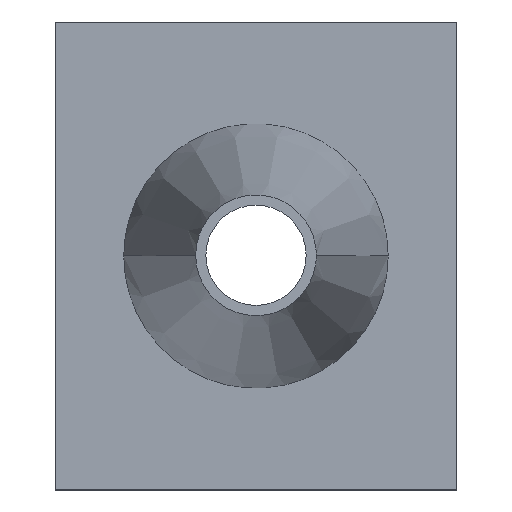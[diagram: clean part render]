
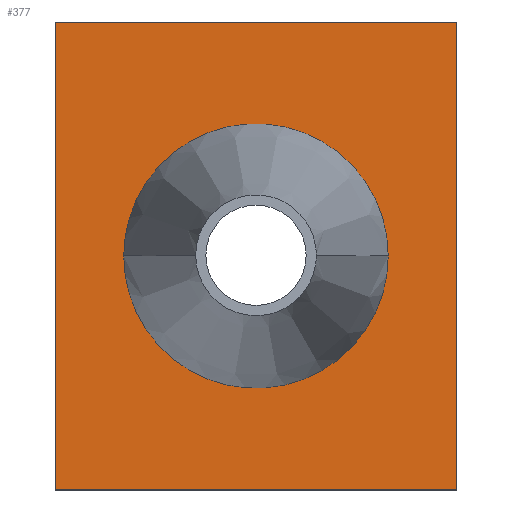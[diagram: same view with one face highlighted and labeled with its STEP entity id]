
A CAD part, top view. The second image highlights one B-rep face of the part: STEP entity #377.
In plain terms, the highlighted planar face has unit normal (0, 0, 1).
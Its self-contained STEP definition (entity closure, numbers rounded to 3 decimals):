
#167=CARTESIAN_POINT('Vertex',(0.,140.,3.)) ;
#174=CARTESIAN_POINT('Vertex',(0.,0.,3.)) ;
#177=CARTESIAN_POINT('Line Origine',(0.,70.,3.)) ;
#198=CARTESIAN_POINT('Vertex',(120.,140.,3.)) ;
#201=CARTESIAN_POINT('Line Origine',(60.,140.,3.)) ;
#222=CARTESIAN_POINT('Vertex',(120.,0.,3.)) ;
#225=CARTESIAN_POINT('Line Origine',(120.,70.,3.)) ;
#242=CARTESIAN_POINT('Line Origine',(60.,0.,3.)) ;
#324=CARTESIAN_POINT('Axis2P3D Location',(0.,0.,3.)) ;
#336=CARTESIAN_POINT('Control Point',(99.558,70.,3.)) ;
#337=CARTESIAN_POINT('Control Point',(99.558,76.178,3.)) ;
#338=CARTESIAN_POINT('Control Point',(98.352,82.355,3.)) ;
#339=CARTESIAN_POINT('Control Point',(95.939,88.219,3.)) ;
#340=CARTESIAN_POINT('Control Point',(88.955,98.693,3.)) ;
#341=CARTESIAN_POINT('Control Point',(78.545,105.772,3.)) ;
#342=CARTESIAN_POINT('Control Point',(72.702,108.239,3.)) ;
#343=CARTESIAN_POINT('Control Point',(60.368,110.763,3.)) ;
#344=CARTESIAN_POINT('Control Point',(47.99,108.462,3.)) ;
#345=CARTESIAN_POINT('Control Point',(42.104,106.101,3.)) ;
#346=CARTESIAN_POINT('Control Point',(31.445,99.132,3.)) ;
#347=CARTESIAN_POINT('Control Point',(24.23,88.625,3.)) ;
#348=CARTESIAN_POINT('Control Point',(21.704,82.641,3.)) ;
#349=CARTESIAN_POINT('Control Point',(20.442,76.32,3.)) ;
#350=CARTESIAN_POINT('Control Point',(20.442,70.,3.)) ;
#351=CARTESIAN_POINT('Vertex',(99.558,70.,3.)) ;
#353=CARTESIAN_POINT('Vertex',(20.442,70.,3.)) ;
#357=CARTESIAN_POINT('Control Point',(99.558,70.,3.)) ;
#358=CARTESIAN_POINT('Control Point',(99.558,63.822,3.)) ;
#359=CARTESIAN_POINT('Control Point',(98.352,57.645,3.)) ;
#360=CARTESIAN_POINT('Control Point',(95.939,51.781,3.)) ;
#361=CARTESIAN_POINT('Control Point',(88.955,41.307,3.)) ;
#362=CARTESIAN_POINT('Control Point',(78.545,34.228,3.)) ;
#363=CARTESIAN_POINT('Control Point',(72.702,31.761,3.)) ;
#364=CARTESIAN_POINT('Control Point',(60.368,29.237,3.)) ;
#365=CARTESIAN_POINT('Control Point',(47.99,31.538,3.)) ;
#366=CARTESIAN_POINT('Control Point',(42.104,33.899,3.)) ;
#367=CARTESIAN_POINT('Control Point',(31.445,40.868,3.)) ;
#368=CARTESIAN_POINT('Control Point',(24.23,51.375,3.)) ;
#369=CARTESIAN_POINT('Control Point',(21.704,57.359,3.)) ;
#370=CARTESIAN_POINT('Control Point',(20.442,63.68,3.)) ;
#371=CARTESIAN_POINT('Control Point',(20.442,70.,3.)) ;
#178=DIRECTION('Vector Direction',(0.,1.,0.)) ;
#202=DIRECTION('Vector Direction',(-1.,0.,0.)) ;
#226=DIRECTION('Vector Direction',(0.,1.,0.)) ;
#243=DIRECTION('Vector Direction',(1.,0.,0.)) ;
#325=DIRECTION('Axis2P3D Direction',(0.,0.,1.)) ;
#326=DIRECTION('Axis2P3D XDirection',(1.,0.,0.)) ;
#327=AXIS2_PLACEMENT_3D('Plane Axis2P3D',#324,#325,#326) ;
#330=ORIENTED_EDGE('',*,*,#181,.F.) ;
#331=ORIENTED_EDGE('',*,*,#246,.T.) ;
#332=ORIENTED_EDGE('',*,*,#229,.T.) ;
#333=ORIENTED_EDGE('',*,*,#205,.T.) ;
#374=ORIENTED_EDGE('',*,*,#355,.F.) ;
#375=ORIENTED_EDGE('',*,*,#372,.T.) ;
#376=FACE_BOUND('',#373,.T.) ;
#179=VECTOR('Line Direction',#178,1.) ;
#203=VECTOR('Line Direction',#202,1.) ;
#227=VECTOR('Line Direction',#226,1.) ;
#244=VECTOR('Line Direction',#243,1.) ;
#377=ADVANCED_FACE('PartBody',(#334,#376),#328,.T.) ;
#335=B_SPLINE_CURVE_WITH_KNOTS('',5,(#336,#337,#338,#339,#340,#341,#342,#343,#344,#345,#346,#347,#348,#349,#350),.UNSPECIFIED.,.F.,.U.,(6,3,3,3,6),(0.,33.034,66.072,99.11,132.907),.UNSPECIFIED.) ;
#356=B_SPLINE_CURVE_WITH_KNOTS('',5,(#357,#358,#359,#360,#361,#362,#363,#364,#365,#366,#367,#368,#369,#370,#371),.UNSPECIFIED.,.F.,.U.,(6,3,3,3,6),(0.,33.034,66.072,99.11,132.907),.UNSPECIFIED.) ;
#181=EDGE_CURVE('',#175,#168,#180,.T.) ;
#205=EDGE_CURVE('',#199,#168,#204,.T.) ;
#229=EDGE_CURVE('',#223,#199,#228,.T.) ;
#246=EDGE_CURVE('',#175,#223,#245,.T.) ;
#355=EDGE_CURVE('',#352,#354,#335,.T.) ;
#372=EDGE_CURVE('',#352,#354,#356,.T.) ;
#329=EDGE_LOOP('',(#330,#331,#332,#333)) ;
#373=EDGE_LOOP('',(#374,#375)) ;
#334=FACE_OUTER_BOUND('',#329,.T.) ;
#180=LINE('Line',#177,#179) ;
#204=LINE('Line',#201,#203) ;
#228=LINE('Line',#225,#227) ;
#245=LINE('Line',#242,#244) ;
#328=PLANE('',#327) ;
#168=VERTEX_POINT('',#167) ;
#175=VERTEX_POINT('',#174) ;
#199=VERTEX_POINT('',#198) ;
#223=VERTEX_POINT('',#222) ;
#352=VERTEX_POINT('',#351) ;
#354=VERTEX_POINT('',#353) ;
